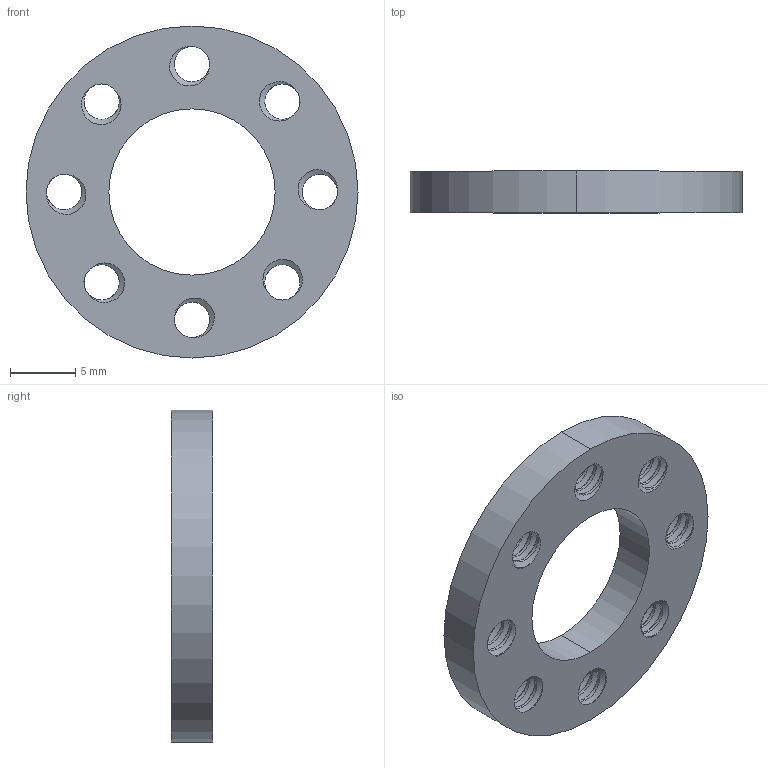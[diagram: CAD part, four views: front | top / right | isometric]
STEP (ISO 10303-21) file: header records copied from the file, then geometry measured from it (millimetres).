
FILE_DESCRIPTION (( 'STEP AP203' ), '1' );
FILE_NAME ('585476.STEP', '2016-08-22T20:00:41', ( '' ), ( '' ), 'SwSTEP 2.0', 'SolidWorks 2014', '' );
FILE_SCHEMA (( 'CONFIG_CONTROL_DESIGN' ));
Length unit declared in the file: inch
Products named in the file (1): 585476
Bounding box: 25.4 x 3.17 x 25.4 mm (x, y, z)
Volume: 1019 mm3; surface area: 1409.5 mm2
Topology: 1 solids, 1 shells, 172 faces, 510 edges, 340 vertices
Faces by surface type: cylinder 154, bspline 16, plane 2
Entity records: 14713 total; most frequent: CARTESIAN_POINT 10927, ORIENTED_EDGE 1020, DIRECTION 556, EDGE_CURVE 510, VERTEX_POINT 340, AXIS2_PLACEMENT_3D 209, EDGE_LOOP 190, FACE_OUTER_BOUND 172
